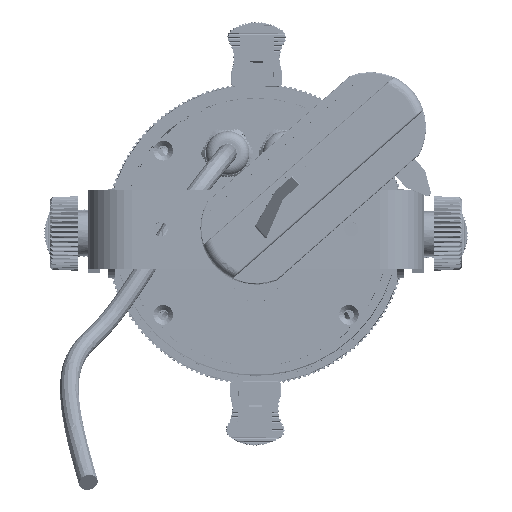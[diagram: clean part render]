
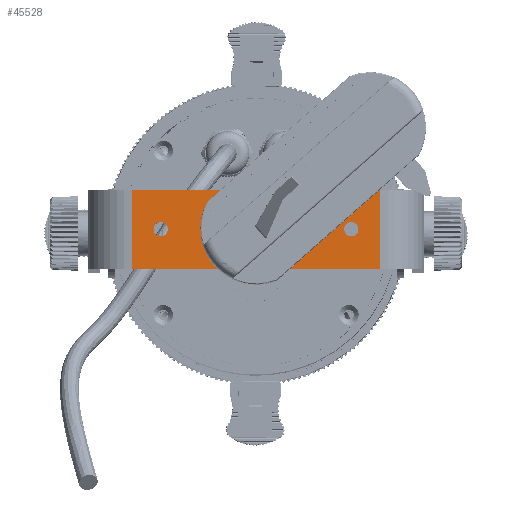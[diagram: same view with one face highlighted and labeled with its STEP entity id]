
A CAD part, top view. The second image highlights one B-rep face of the part: STEP entity #45528.
In plain terms, the highlighted planar face has unit normal (0, 0.005, 1) as drawn and (0, 0, -1) by its records, which use the part's own axes.
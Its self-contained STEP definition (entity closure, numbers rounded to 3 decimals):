
#409 = ORIENTED_EDGE ( 'NONE', *, *, #144139, .F. ) ;
#642 = LINE ( 'NONE', #50440, #160612 ) ;
#9246 = CIRCLE ( 'NONE', #132941, 2.25 ) ;
#13254 = DIRECTION ( 'NONE',  ( 1., 0., 0. ) ) ;
#13319 = LINE ( 'NONE', #128471, #190568 ) ;
#15969 = DIRECTION ( 'NONE',  ( 0., 1., 0. ) ) ;
#19407 = ORIENTED_EDGE ( 'NONE', *, *, #167427, .F. ) ;
#20552 = EDGE_LOOP ( 'NONE', ( #409, #157074 ) ) ;
#22487 = CARTESIAN_POINT ( 'NONE',  ( -39., 12.5, 0. ) ) ;
#27208 = DIRECTION ( 'NONE',  ( 0., -1., 0. ) ) ;
#27627 = VECTOR ( 'NONE', #57848, 1000. ) ;
#31121 = EDGE_CURVE ( 'NONE', #115327, #74830, #51461, .T. ) ;
#34324 = EDGE_LOOP ( 'NONE', ( #67696, #38485 ) ) ;
#34723 = CARTESIAN_POINT ( 'NONE',  ( -30., 0., 0. ) ) ;
#36541 = ORIENTED_EDGE ( 'NONE', *, *, #155903, .F. ) ;
#38485 = ORIENTED_EDGE ( 'NONE', *, *, #31121, .F. ) ;
#41161 = CARTESIAN_POINT ( 'NONE',  ( 30., -2.25, 0. ) ) ;
#45429 = ORIENTED_EDGE ( 'NONE', *, *, #187700, .T. ) ;
#45528 = ADVANCED_FACE ( 'NONE', ( #81843, #67429, #82958, #134941 ), #151557, .F. ) ;
#48778 = DIRECTION ( 'NONE',  ( 0., 0., -1. ) ) ;
#50440 = CARTESIAN_POINT ( 'NONE',  ( -39., 12.5, 0. ) ) ;
#50569 = EDGE_CURVE ( 'NONE', #74830, #115327, #151964, .T. ) ;
#51461 = CIRCLE ( 'NONE', #111662, 5.5 ) ;
#54809 = VERTEX_POINT ( 'NONE', #164359 ) ;
#55314 = CARTESIAN_POINT ( 'NONE',  ( -30., 2.25, 0. ) ) ;
#57848 = DIRECTION ( 'NONE',  ( 1., 0., 0. ) ) ;
#58839 = CARTESIAN_POINT ( 'NONE',  ( 39., 12.5, 0. ) ) ;
#63674 = VERTEX_POINT ( 'NONE', #131216 ) ;
#67429 = FACE_BOUND ( 'NONE', #217805, .T. ) ;
#67696 = ORIENTED_EDGE ( 'NONE', *, *, #50569, .F. ) ;
#68530 = DIRECTION ( 'NONE',  ( 0., -1., 0. ) ) ;
#73409 = EDGE_CURVE ( 'NONE', #104008, #75655, #189951, .T. ) ;
#74830 = VERTEX_POINT ( 'NONE', #178304 ) ;
#75655 = VERTEX_POINT ( 'NONE', #170994 ) ;
#81151 = AXIS2_PLACEMENT_3D ( 'NONE', #168348, #48778, #136215 ) ;
#81843 = FACE_BOUND ( 'NONE', #20552, .T. ) ;
#82958 = FACE_BOUND ( 'NONE', #34324, .T. ) ;
#89475 = CARTESIAN_POINT ( 'NONE',  ( 39., -12.5, 0. ) ) ;
#93634 = EDGE_LOOP ( 'NONE', ( #19407, #45429, #99019, #208767 ) ) ;
#94202 = AXIS2_PLACEMENT_3D ( 'NONE', #100651, #163799, #13254 ) ;
#96750 = EDGE_CURVE ( 'NONE', #137983, #158262, #13319, .T. ) ;
#99019 = ORIENTED_EDGE ( 'NONE', *, *, #193549, .T. ) ;
#99668 = VERTEX_POINT ( 'NONE', #58839 ) ;
#100651 = CARTESIAN_POINT ( 'NONE',  ( 0., 0., 0. ) ) ;
#104008 = VERTEX_POINT ( 'NONE', #55314 ) ;
#107227 = DIRECTION ( 'NONE',  ( 0., 0., -1. ) ) ;
#108787 = DIRECTION ( 'NONE',  ( 0., 0., -1. ) ) ;
#111662 = AXIS2_PLACEMENT_3D ( 'NONE', #126500, #108787, #144214 ) ;
#115327 = VERTEX_POINT ( 'NONE', #174126 ) ;
#115805 = DIRECTION ( 'NONE',  ( 0., -1., 0. ) ) ;
#116192 = CARTESIAN_POINT ( 'NONE',  ( 30., 0., 0. ) ) ;
#126500 = CARTESIAN_POINT ( 'NONE',  ( 0., 0., 0. ) ) ;
#128471 = CARTESIAN_POINT ( 'NONE',  ( 39., -12.5, 0. ) ) ;
#131216 = CARTESIAN_POINT ( 'NONE',  ( -39., 12.5, 0. ) ) ;
#132941 = AXIS2_PLACEMENT_3D ( 'NONE', #116192, #151566, #68530 ) ;
#134941 = FACE_OUTER_BOUND ( 'NONE', #93634, .T. ) ;
#136215 = DIRECTION ( 'NONE',  ( 0., 1., 0. ) ) ;
#136820 = AXIS2_PLACEMENT_3D ( 'NONE', #34723, #200873, #15969 ) ;
#137801 = DIRECTION ( 'NONE',  ( 0., -1., 0. ) ) ;
#137983 = VERTEX_POINT ( 'NONE', #89475 ) ;
#139361 = CARTESIAN_POINT ( 'NONE',  ( -30., 0., 0. ) ) ;
#141988 = ORIENTED_EDGE ( 'NONE', *, *, #73409, .F. ) ;
#144139 = EDGE_CURVE ( 'NONE', #213621, #54809, #9246, .T. ) ;
#144214 = DIRECTION ( 'NONE',  ( 0., -1., 0. ) ) ;
#145627 = CIRCLE ( 'NONE', #166793, 2.25 ) ;
#151557 = PLANE ( 'NONE',  #94202 ) ;
#151566 = DIRECTION ( 'NONE',  ( 0., 0., -1. ) ) ;
#151964 = CIRCLE ( 'NONE', #81151, 5.5 ) ;
#154064 = CARTESIAN_POINT ( 'NONE',  ( -39., -12.5, 0. ) ) ;
#155486 = CARTESIAN_POINT ( 'NONE',  ( 39., 12.5, 0. ) ) ;
#155903 = EDGE_CURVE ( 'NONE', #75655, #104008, #198850, .T. ) ;
#157074 = ORIENTED_EDGE ( 'NONE', *, *, #219071, .F. ) ;
#158262 = VERTEX_POINT ( 'NONE', #154064 ) ;
#160612 = VECTOR ( 'NONE', #115805, 1000. ) ;
#161120 = DIRECTION ( 'NONE',  ( 0., 0., -1. ) ) ;
#163799 = DIRECTION ( 'NONE',  ( 0., 0., 1. ) ) ;
#164359 = CARTESIAN_POINT ( 'NONE',  ( 30., 2.25, 0. ) ) ;
#164407 = DIRECTION ( 'NONE',  ( 0., 1., 0. ) ) ;
#166793 = AXIS2_PLACEMENT_3D ( 'NONE', #198778, #161120, #164407 ) ;
#167427 = EDGE_CURVE ( 'NONE', #63674, #158262, #642, .T. ) ;
#168348 = CARTESIAN_POINT ( 'NONE',  ( 0., 0., 0. ) ) ;
#170994 = CARTESIAN_POINT ( 'NONE',  ( -30., -2.25, 0. ) ) ;
#174126 = CARTESIAN_POINT ( 'NONE',  ( 0., -5.5, 0. ) ) ;
#175248 = LINE ( 'NONE', #22487, #27627 ) ;
#178304 = CARTESIAN_POINT ( 'NONE',  ( 0., 5.5, 0. ) ) ;
#184637 = AXIS2_PLACEMENT_3D ( 'NONE', #139361, #107227, #27208 ) ;
#187700 = EDGE_CURVE ( 'NONE', #63674, #99668, #175248, .T. ) ;
#189951 = CIRCLE ( 'NONE', #136820, 2.25 ) ;
#190568 = VECTOR ( 'NONE', #211566, 1000. ) ;
#193549 = EDGE_CURVE ( 'NONE', #99668, #137983, #204291, .T. ) ;
#198778 = CARTESIAN_POINT ( 'NONE',  ( 30., 0., 0. ) ) ;
#198850 = CIRCLE ( 'NONE', #184637, 2.25 ) ;
#200873 = DIRECTION ( 'NONE',  ( 0., 0., -1. ) ) ;
#204291 = LINE ( 'NONE', #155486, #216615 ) ;
#208767 = ORIENTED_EDGE ( 'NONE', *, *, #96750, .T. ) ;
#211566 = DIRECTION ( 'NONE',  ( -1., 0., 0. ) ) ;
#213621 = VERTEX_POINT ( 'NONE', #41161 ) ;
#216615 = VECTOR ( 'NONE', #137801, 1000. ) ;
#217805 = EDGE_LOOP ( 'NONE', ( #36541, #141988 ) ) ;
#219071 = EDGE_CURVE ( 'NONE', #54809, #213621, #145627, .T. ) ;
